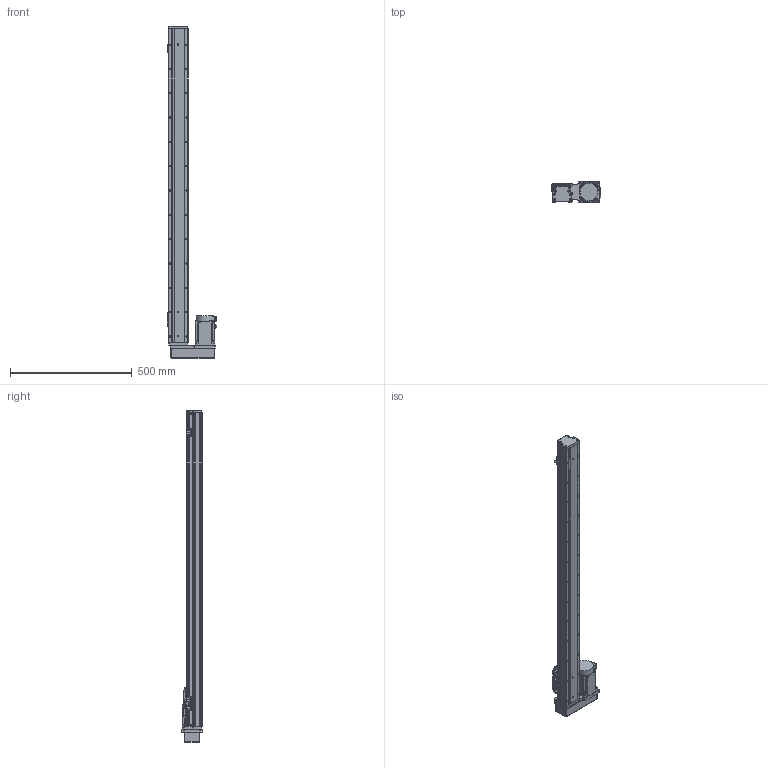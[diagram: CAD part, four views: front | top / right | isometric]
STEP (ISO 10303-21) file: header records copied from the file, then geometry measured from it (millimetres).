
FILE_DESCRIPTION (( 'STEP AP203' ), '1' );
FILE_NAME ('GTH8-1100-BR-M75-C4.step', '2023-02-14T02:32:24', ( '微软用户' ), ( '微软中国' ), 'SwSTEP 2.0', 'SolidWorks 2020', '' );
FILE_SCHEMA (( 'CONFIG_CONTROL_DESIGN' ));
Length unit declared in the file: millimetre
Products named in the file (18): GTH50-023; GBT 70.3-M3℅6; GBT96.1-2002 3×0.8; GTH80-022; BTH-M3X5X6; GTH80-001_1100; GBT 70.1-M3℅6; CTHA86-015-3_CTHA86-015-4; GTH80-003; GBT 70.1-M4×16; CTHA86-035; GTH80-004; GTH80-028; hg-kn73j_-s100; GTH80-006; GTH50-024; GTH8-1100-BR-M75-C4; GTH80-013
Assembly tree (57 placements, depth 2):
  GTH8-1100-BR-M75-C4
    GTH80-001_1100
    GTH80-003
    GTH80-004
    GTH80-006
    GTH80-013
    GBT 70.3-M3℅6  x4
    GTH80-022
    GBT 70.1-M3℅6  x14
    GBT 70.1-M4×16  x8
    GTH80-028  x2
    GTH50-024  x3
    GTH50-023  x3
    GBT96.1-2002 3×0.8  x6
    BTH-M3X5X6  x8
    CTHA86-015-3_CTHA86-015-4
    CTHA86-035
    hg-kn73j_-s100
Bounding box: 204.7 x 87 x 1366 mm (x, y, z)
Volume: 7129070 mm3; surface area: 673034.5 mm2
Topology: 59 solids, 59 shells, 2215 faces, 5154 edges, 3160 vertices
Faces by surface type: plane 1153, cylinder 647, cone 243, torus 158, sphere 12, bspline 2
Entity records: 40328 total; most frequent: CARTESIAN_POINT 6767, DIRECTION 6669, ORIENTED_EDGE 6118, EDGE_CURVE 3059, AXIS2_PLACEMENT_3D 2362, VECTOR 1945, LINE 1945, VERTEX_POINT 1935
